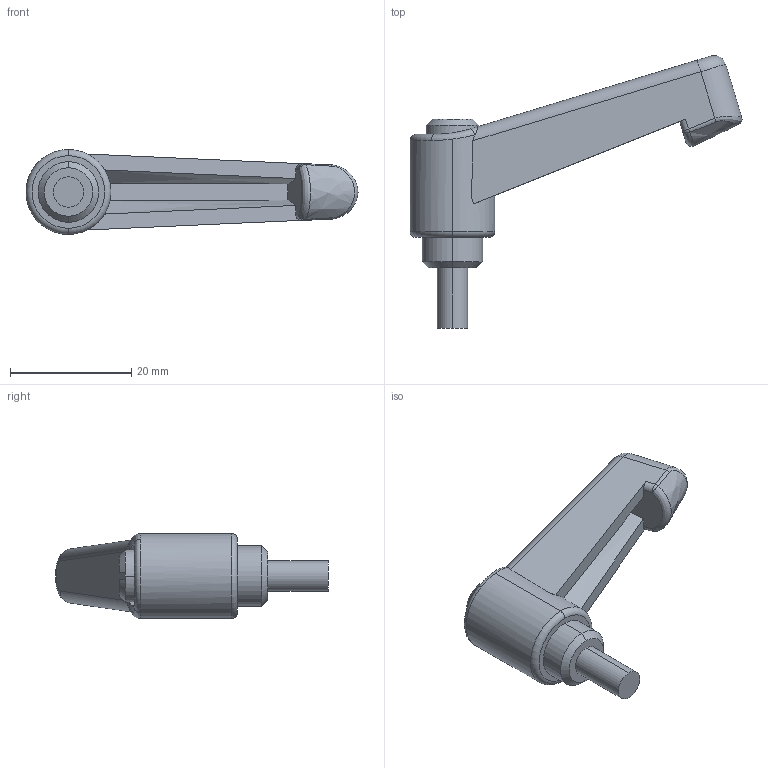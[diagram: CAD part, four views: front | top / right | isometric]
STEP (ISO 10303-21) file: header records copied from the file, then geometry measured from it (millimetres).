
FILE_DESCRIPTION (( 'STEP AP203' ), '1' );
FILE_NAME ('AS-406-45-M5.STEP', '2015-11-23T07:10:26', ( '' ), ( '' ), 'SwSTEP 2.0', 'SolidWorks 2014', '' );
FILE_SCHEMA (( 'CONFIG_CONTROL_DESIGN' ));
Length unit declared in the file: millimetre
Products named in the file (1): AS-406-45-M5
Bounding box: 54.78 x 45 x 14 mm (x, y, z)
Volume: 7100 mm3; surface area: 3608.4 mm2
Topology: 1 solids, 1 shells, 59 faces, 140 edges, 86 vertices
Faces by surface type: plane 19, cylinder 17, bspline 11, torus 4, cone 4, sphere 4
Entity records: 2287 total; most frequent: CARTESIAN_POINT 946, ORIENTED_EDGE 280, DIRECTION 249, EDGE_CURVE 140, AXIS2_PLACEMENT_3D 103, VERTEX_POINT 86, EDGE_LOOP 62, FACE_OUTER_BOUND 59
